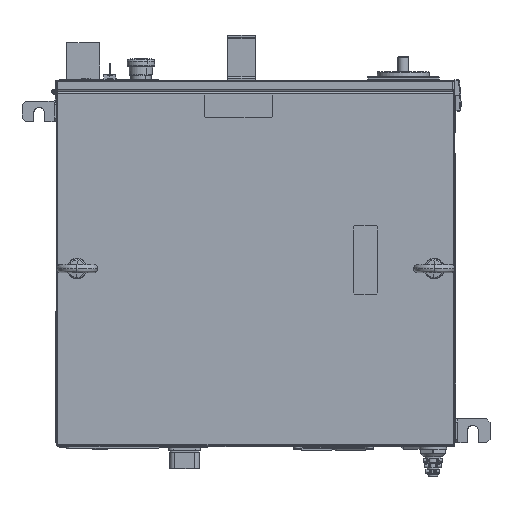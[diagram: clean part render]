
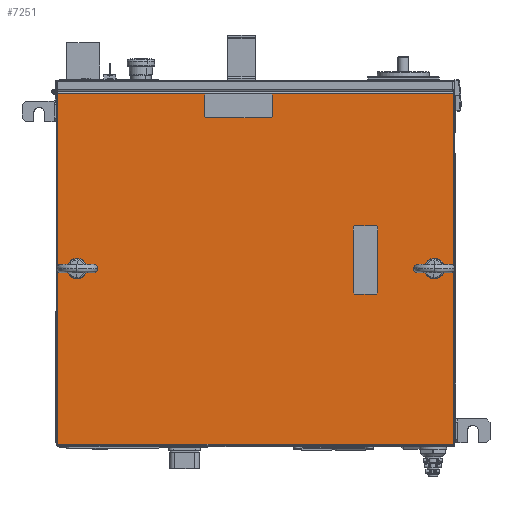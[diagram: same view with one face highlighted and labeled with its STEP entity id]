
A CAD part, top view. The second image highlights one B-rep face of the part: STEP entity #7251.
In plain terms, the highlighted planar face has unit normal (0, 0, 1).
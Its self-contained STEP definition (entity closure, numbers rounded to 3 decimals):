
#6952=CARTESIAN_POINT('Vertex',(-578.,-2.,580.)) ;
#6955=CARTESIAN_POINT('Line Origine',(-290.,-2.,580.)) ;
#6959=CARTESIAN_POINT('Vertex',(-2.,-2.,580.)) ;
#7089=CARTESIAN_POINT('Axis2P3D Location',(-580.,0.,580.)) ;
#7094=CARTESIAN_POINT('Line Origine',(-290.,-513.,580.)) ;
#7098=CARTESIAN_POINT('Vertex',(-578.,-513.,580.)) ;
#7100=CARTESIAN_POINT('Vertex',(-2.,-513.,580.)) ;
#7103=CARTESIAN_POINT('Line Origine',(-2.,-257.5,580.)) ;
#7108=CARTESIAN_POINT('Line Origine',(-578.,-257.5,580.)) ;
#7119=CARTESIAN_POINT('Line Origine',(-130.,-294.8,580.)) ;
#7123=CARTESIAN_POINT('Vertex',(-145.5,-294.8,580.)) ;
#7125=CARTESIAN_POINT('Vertex',(-114.5,-294.8,580.)) ;
#7128=CARTESIAN_POINT('Line Origine',(-146.5,-293.8,580.)) ;
#7132=CARTESIAN_POINT('Vertex',(-147.5,-292.8,580.)) ;
#7135=CARTESIAN_POINT('Line Origine',(-147.5,-244.8,580.)) ;
#7139=CARTESIAN_POINT('Vertex',(-147.5,-196.8,580.)) ;
#7142=CARTESIAN_POINT('Line Origine',(-146.5,-195.8,580.)) ;
#7146=CARTESIAN_POINT('Vertex',(-145.5,-194.8,580.)) ;
#7149=CARTESIAN_POINT('Line Origine',(-130.,-194.8,580.)) ;
#7153=CARTESIAN_POINT('Vertex',(-114.5,-194.8,580.)) ;
#7156=CARTESIAN_POINT('Line Origine',(-113.5,-195.8,580.)) ;
#7160=CARTESIAN_POINT('Vertex',(-112.5,-196.8,580.)) ;
#7163=CARTESIAN_POINT('Line Origine',(-112.5,-244.8,580.)) ;
#7167=CARTESIAN_POINT('Vertex',(-112.5,-292.8,580.)) ;
#7170=CARTESIAN_POINT('Line Origine',(-113.5,-293.8,580.)) ;
#7185=CARTESIAN_POINT('Line Origine',(-365.,-20.5,580.)) ;
#7189=CARTESIAN_POINT('Vertex',(-365.,-36.,580.)) ;
#7191=CARTESIAN_POINT('Vertex',(-365.,-5.,580.)) ;
#7194=CARTESIAN_POINT('Line Origine',(-364.,-4.,580.)) ;
#7198=CARTESIAN_POINT('Vertex',(-363.,-3.,580.)) ;
#7201=CARTESIAN_POINT('Line Origine',(-315.,-3.,580.)) ;
#7205=CARTESIAN_POINT('Vertex',(-267.,-3.,580.)) ;
#7208=CARTESIAN_POINT('Line Origine',(-266.,-4.,580.)) ;
#7212=CARTESIAN_POINT('Vertex',(-265.,-5.,580.)) ;
#7215=CARTESIAN_POINT('Line Origine',(-265.,-20.5,580.)) ;
#7219=CARTESIAN_POINT('Vertex',(-265.,-36.,580.)) ;
#7222=CARTESIAN_POINT('Line Origine',(-266.,-37.,580.)) ;
#7226=CARTESIAN_POINT('Vertex',(-267.,-38.,580.)) ;
#7229=CARTESIAN_POINT('Line Origine',(-315.,-38.,580.)) ;
#7233=CARTESIAN_POINT('Vertex',(-363.,-38.,580.)) ;
#7236=CARTESIAN_POINT('Line Origine',(-364.,-37.,580.)) ;
#6956=DIRECTION('Vector Direction',(1.,0.,0.)) ;
#7090=DIRECTION('Axis2P3D Direction',(0.,0.,-1.)) ;
#7091=DIRECTION('Axis2P3D XDirection',(1.,0.,0.)) ;
#7095=DIRECTION('Vector Direction',(-1.,0.,0.)) ;
#7104=DIRECTION('Vector Direction',(0.,1.,0.)) ;
#7109=DIRECTION('Vector Direction',(0.,1.,0.)) ;
#7120=DIRECTION('Vector Direction',(1.,0.,0.)) ;
#7129=DIRECTION('Vector Direction',(-0.707,0.707,0.)) ;
#7136=DIRECTION('Vector Direction',(0.,1.,0.)) ;
#7143=DIRECTION('Vector Direction',(0.707,0.707,0.)) ;
#7150=DIRECTION('Vector Direction',(1.,0.,0.)) ;
#7157=DIRECTION('Vector Direction',(0.707,-0.707,0.)) ;
#7164=DIRECTION('Vector Direction',(0.,1.,0.)) ;
#7171=DIRECTION('Vector Direction',(0.707,0.707,0.)) ;
#7186=DIRECTION('Vector Direction',(0.,1.,0.)) ;
#7195=DIRECTION('Vector Direction',(0.707,0.707,0.)) ;
#7202=DIRECTION('Vector Direction',(1.,0.,0.)) ;
#7209=DIRECTION('Vector Direction',(0.707,-0.707,0.)) ;
#7216=DIRECTION('Vector Direction',(0.,-1.,0.)) ;
#7223=DIRECTION('Vector Direction',(-0.707,-0.707,0.)) ;
#7230=DIRECTION('Vector Direction',(-1.,0.,0.)) ;
#7237=DIRECTION('Vector Direction',(-0.707,0.707,0.)) ;
#7092=AXIS2_PLACEMENT_3D('Plane Axis2P3D',#7089,#7090,#7091) ;
#7114=ORIENTED_EDGE('',*,*,#7102,.T.) ;
#7115=ORIENTED_EDGE('',*,*,#7107,.T.) ;
#7116=ORIENTED_EDGE('',*,*,#6961,.T.) ;
#7117=ORIENTED_EDGE('',*,*,#7112,.T.) ;
#7176=ORIENTED_EDGE('',*,*,#7127,.F.) ;
#7177=ORIENTED_EDGE('',*,*,#7134,.T.) ;
#7178=ORIENTED_EDGE('',*,*,#7141,.T.) ;
#7179=ORIENTED_EDGE('',*,*,#7148,.T.) ;
#7180=ORIENTED_EDGE('',*,*,#7155,.T.) ;
#7181=ORIENTED_EDGE('',*,*,#7162,.T.) ;
#7182=ORIENTED_EDGE('',*,*,#7169,.F.) ;
#7183=ORIENTED_EDGE('',*,*,#7174,.F.) ;
#7242=ORIENTED_EDGE('',*,*,#7193,.T.) ;
#7243=ORIENTED_EDGE('',*,*,#7200,.T.) ;
#7244=ORIENTED_EDGE('',*,*,#7207,.T.) ;
#7245=ORIENTED_EDGE('',*,*,#7214,.T.) ;
#7246=ORIENTED_EDGE('',*,*,#7221,.T.) ;
#7247=ORIENTED_EDGE('',*,*,#7228,.T.) ;
#7248=ORIENTED_EDGE('',*,*,#7235,.T.) ;
#7249=ORIENTED_EDGE('',*,*,#7240,.T.) ;
#7184=FACE_BOUND('',#7175,.T.) ;
#7250=FACE_BOUND('',#7241,.T.) ;
#6957=VECTOR('Line Direction',#6956,1.) ;
#7096=VECTOR('Line Direction',#7095,1.) ;
#7105=VECTOR('Line Direction',#7104,1.) ;
#7110=VECTOR('Line Direction',#7109,1.) ;
#7121=VECTOR('Line Direction',#7120,1.) ;
#7130=VECTOR('Line Direction',#7129,1.) ;
#7137=VECTOR('Line Direction',#7136,1.) ;
#7144=VECTOR('Line Direction',#7143,1.) ;
#7151=VECTOR('Line Direction',#7150,1.) ;
#7158=VECTOR('Line Direction',#7157,1.) ;
#7165=VECTOR('Line Direction',#7164,1.) ;
#7172=VECTOR('Line Direction',#7171,1.) ;
#7187=VECTOR('Line Direction',#7186,1.) ;
#7196=VECTOR('Line Direction',#7195,1.) ;
#7203=VECTOR('Line Direction',#7202,1.) ;
#7210=VECTOR('Line Direction',#7209,1.) ;
#7217=VECTOR('Line Direction',#7216,1.) ;
#7224=VECTOR('Line Direction',#7223,1.) ;
#7231=VECTOR('Line Direction',#7230,1.) ;
#7238=VECTOR('Line Direction',#7237,1.) ;
#7251=ADVANCED_FACE('E__A I_____',(#7118,#7184,#7250),#7093,.F.) ;
#6961=EDGE_CURVE('',#6960,#6953,#6958,.F.) ;
#7102=EDGE_CURVE('',#7099,#7101,#7097,.F.) ;
#7107=EDGE_CURVE('',#7101,#6960,#7106,.T.) ;
#7112=EDGE_CURVE('',#6953,#7099,#7111,.F.) ;
#7127=EDGE_CURVE('',#7124,#7126,#7122,.T.) ;
#7134=EDGE_CURVE('',#7124,#7133,#7131,.T.) ;
#7141=EDGE_CURVE('',#7133,#7140,#7138,.T.) ;
#7148=EDGE_CURVE('',#7140,#7147,#7145,.T.) ;
#7155=EDGE_CURVE('',#7147,#7154,#7152,.T.) ;
#7162=EDGE_CURVE('',#7154,#7161,#7159,.T.) ;
#7169=EDGE_CURVE('',#7168,#7161,#7166,.T.) ;
#7174=EDGE_CURVE('',#7126,#7168,#7173,.T.) ;
#7193=EDGE_CURVE('',#7190,#7192,#7188,.T.) ;
#7200=EDGE_CURVE('',#7192,#7199,#7197,.T.) ;
#7207=EDGE_CURVE('',#7199,#7206,#7204,.T.) ;
#7214=EDGE_CURVE('',#7206,#7213,#7211,.T.) ;
#7221=EDGE_CURVE('',#7213,#7220,#7218,.T.) ;
#7228=EDGE_CURVE('',#7220,#7227,#7225,.T.) ;
#7235=EDGE_CURVE('',#7227,#7234,#7232,.T.) ;
#7240=EDGE_CURVE('',#7234,#7190,#7239,.T.) ;
#7113=EDGE_LOOP('',(#7114,#7115,#7116,#7117)) ;
#7175=EDGE_LOOP('',(#7176,#7177,#7178,#7179,#7180,#7181,#7182,#7183)) ;
#7241=EDGE_LOOP('',(#7242,#7243,#7244,#7245,#7246,#7247,#7248,#7249)) ;
#7118=FACE_OUTER_BOUND('',#7113,.T.) ;
#6958=LINE('Line',#6955,#6957) ;
#7097=LINE('Line',#7094,#7096) ;
#7106=LINE('Line',#7103,#7105) ;
#7111=LINE('Line',#7108,#7110) ;
#7122=LINE('Line',#7119,#7121) ;
#7131=LINE('Line',#7128,#7130) ;
#7138=LINE('Line',#7135,#7137) ;
#7145=LINE('Line',#7142,#7144) ;
#7152=LINE('Line',#7149,#7151) ;
#7159=LINE('Line',#7156,#7158) ;
#7166=LINE('Line',#7163,#7165) ;
#7173=LINE('Line',#7170,#7172) ;
#7188=LINE('Line',#7185,#7187) ;
#7197=LINE('Line',#7194,#7196) ;
#7204=LINE('Line',#7201,#7203) ;
#7211=LINE('Line',#7208,#7210) ;
#7218=LINE('Line',#7215,#7217) ;
#7225=LINE('Line',#7222,#7224) ;
#7232=LINE('Line',#7229,#7231) ;
#7239=LINE('Line',#7236,#7238) ;
#7093=PLANE('',#7092) ;
#6953=VERTEX_POINT('',#6952) ;
#6960=VERTEX_POINT('',#6959) ;
#7099=VERTEX_POINT('',#7098) ;
#7101=VERTEX_POINT('',#7100) ;
#7124=VERTEX_POINT('',#7123) ;
#7126=VERTEX_POINT('',#7125) ;
#7133=VERTEX_POINT('',#7132) ;
#7140=VERTEX_POINT('',#7139) ;
#7147=VERTEX_POINT('',#7146) ;
#7154=VERTEX_POINT('',#7153) ;
#7161=VERTEX_POINT('',#7160) ;
#7168=VERTEX_POINT('',#7167) ;
#7190=VERTEX_POINT('',#7189) ;
#7192=VERTEX_POINT('',#7191) ;
#7199=VERTEX_POINT('',#7198) ;
#7206=VERTEX_POINT('',#7205) ;
#7213=VERTEX_POINT('',#7212) ;
#7220=VERTEX_POINT('',#7219) ;
#7227=VERTEX_POINT('',#7226) ;
#7234=VERTEX_POINT('',#7233) ;
